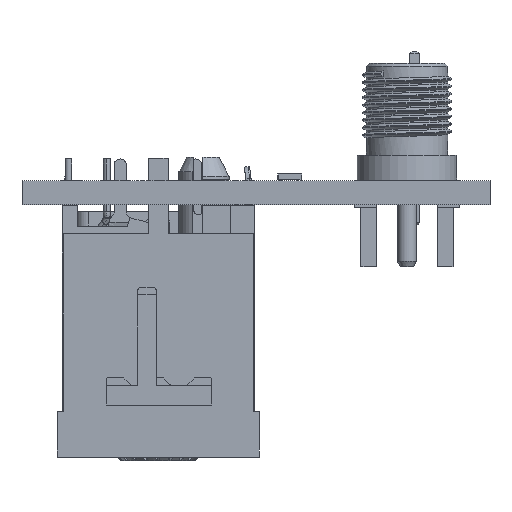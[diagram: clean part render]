
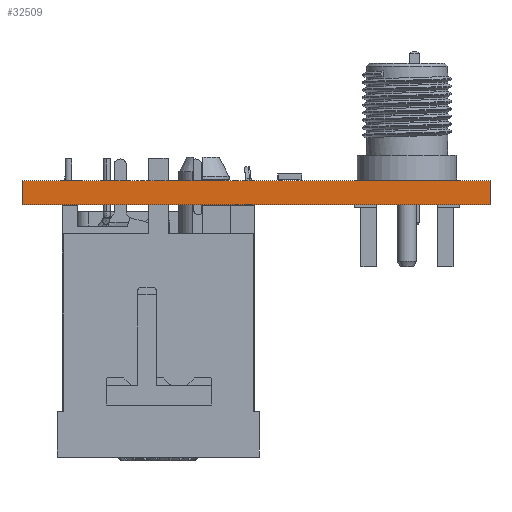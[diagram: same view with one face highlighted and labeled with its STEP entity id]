
A CAD part, front view. The second image highlights one B-rep face of the part: STEP entity #32509.
In plain terms, the highlighted planar face has unit normal (0, -1, 0).
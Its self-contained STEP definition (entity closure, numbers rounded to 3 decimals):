
#32509 = ADVANCED_FACE('',(#32510),#32544,.T.);
#32510 = FACE_BOUND('',#32511,.T.);
#32511 = EDGE_LOOP('',(#32512,#32522,#32530,#32538));
#32512 = ORIENTED_EDGE('',*,*,#32513,.T.);
#32513 = EDGE_CURVE('',#32514,#32516,#32518,.T.);
#32514 = VERTEX_POINT('',#32515);
#32515 = CARTESIAN_POINT('',(151.,-100.,0.));
#32516 = VERTEX_POINT('',#32517);
#32517 = CARTESIAN_POINT('',(151.,-100.,1.6));
#32518 = LINE('',#32519,#32520);
#32519 = CARTESIAN_POINT('',(151.,-100.,0.));
#32520 = VECTOR('',#32521,1.);
#32521 = DIRECTION('',(0.,0.,1.));
#32522 = ORIENTED_EDGE('',*,*,#32523,.T.);
#32523 = EDGE_CURVE('',#32516,#32524,#32526,.T.);
#32524 = VERTEX_POINT('',#32525);
#32525 = CARTESIAN_POINT('',(120.,-100.,1.6));
#32526 = LINE('',#32527,#32528);
#32527 = CARTESIAN_POINT('',(151.,-100.,1.6));
#32528 = VECTOR('',#32529,1.);
#32529 = DIRECTION('',(-1.,0.,0.));
#32530 = ORIENTED_EDGE('',*,*,#32531,.F.);
#32531 = EDGE_CURVE('',#32532,#32524,#32534,.T.);
#32532 = VERTEX_POINT('',#32533);
#32533 = CARTESIAN_POINT('',(120.,-100.,0.));
#32534 = LINE('',#32535,#32536);
#32535 = CARTESIAN_POINT('',(120.,-100.,0.));
#32536 = VECTOR('',#32537,1.);
#32537 = DIRECTION('',(0.,0.,1.));
#32538 = ORIENTED_EDGE('',*,*,#32539,.F.);
#32539 = EDGE_CURVE('',#32514,#32532,#32540,.T.);
#32540 = LINE('',#32541,#32542);
#32541 = CARTESIAN_POINT('',(151.,-100.,0.));
#32542 = VECTOR('',#32543,1.);
#32543 = DIRECTION('',(-1.,0.,0.));
#32544 = PLANE('',#32545);
#32545 = AXIS2_PLACEMENT_3D('',#32546,#32547,#32548);
#32546 = CARTESIAN_POINT('',(151.,-100.,0.));
#32547 = DIRECTION('',(0.,-1.,0.));
#32548 = DIRECTION('',(-1.,0.,0.));
